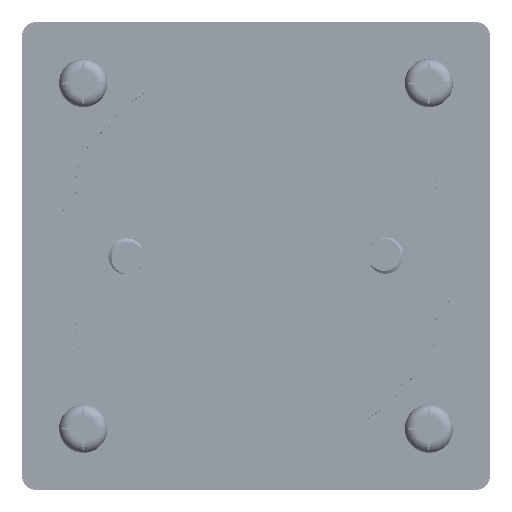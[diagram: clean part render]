
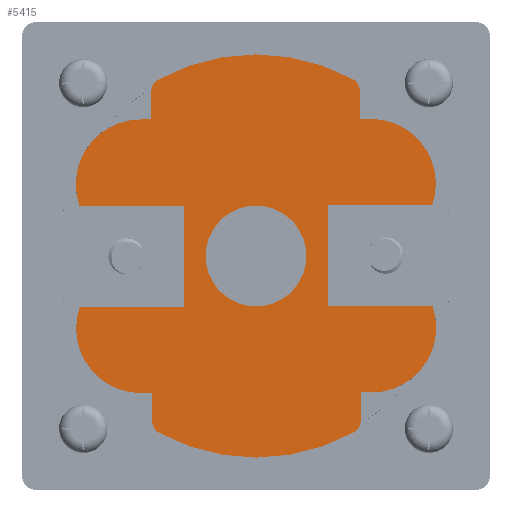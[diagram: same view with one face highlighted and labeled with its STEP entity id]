
A CAD part, front view. The second image highlights one B-rep face of the part: STEP entity #5415.
In plain terms, the highlighted planar face has unit normal (0, -1, 0).
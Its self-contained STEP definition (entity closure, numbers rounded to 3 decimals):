
#1815=FACE_BOUND('',#11530,.T.);
#1816=FACE_BOUND('',#11531,.T.);
#5415=ADVANCED_FACE('',(#1815,#1816),#7051,.F.);
#7051=PLANE('',#46817);
#11530=EDGE_LOOP('',(#23997,#23998,#23999,#24000,#24001,#24002,#24003,#24004,
#24005,#24006,#24007,#24008,#24009,#24010,#24011,#24012,#24013,#24014,#24015,
#24016,#24017,#24018,#24019,#24020,#24021));
#11531=EDGE_LOOP('',(#24022));
#13544=CIRCLE('',#46805,9.);
#13545=CIRCLE('',#46806,2.);
#13546=CIRCLE('',#46807,28.);
#13547=CIRCLE('',#46808,2.);
#13548=CIRCLE('',#46809,8.96);
#13549=CIRCLE('',#46810,9.);
#13550=CIRCLE('',#46811,9.);
#13551=CIRCLE('',#46812,2.);
#13552=CIRCLE('',#46813,28.);
#13553=CIRCLE('',#46814,2.);
#13554=CIRCLE('',#46815,9.);
#13555=CIRCLE('',#46816,7.);
#23997=ORIENTED_EDGE('',*,*,#36170,.F.);
#23998=ORIENTED_EDGE('',*,*,#36171,.T.);
#23999=ORIENTED_EDGE('',*,*,#36172,.T.);
#24000=ORIENTED_EDGE('',*,*,#36173,.T.);
#24001=ORIENTED_EDGE('',*,*,#36174,.T.);
#24002=ORIENTED_EDGE('',*,*,#36175,.T.);
#24003=ORIENTED_EDGE('',*,*,#36176,.T.);
#24004=ORIENTED_EDGE('',*,*,#36177,.T.);
#24005=ORIENTED_EDGE('',*,*,#36178,.T.);
#24006=ORIENTED_EDGE('',*,*,#36179,.T.);
#24007=ORIENTED_EDGE('',*,*,#36180,.T.);
#24008=ORIENTED_EDGE('',*,*,#36181,.F.);
#24009=ORIENTED_EDGE('',*,*,#36182,.F.);
#24010=ORIENTED_EDGE('',*,*,#36183,.F.);
#24011=ORIENTED_EDGE('',*,*,#36184,.T.);
#24012=ORIENTED_EDGE('',*,*,#36185,.T.);
#24013=ORIENTED_EDGE('',*,*,#36186,.T.);
#24014=ORIENTED_EDGE('',*,*,#36187,.T.);
#24015=ORIENTED_EDGE('',*,*,#36188,.T.);
#24016=ORIENTED_EDGE('',*,*,#36189,.T.);
#24017=ORIENTED_EDGE('',*,*,#36190,.T.);
#24018=ORIENTED_EDGE('',*,*,#36191,.T.);
#24019=ORIENTED_EDGE('',*,*,#36192,.T.);
#24020=ORIENTED_EDGE('',*,*,#36193,.F.);
#24021=ORIENTED_EDGE('',*,*,#36194,.F.);
#24022=ORIENTED_EDGE('',*,*,#36195,.F.);
#30171=VERTEX_POINT('',#169929);
#30172=VERTEX_POINT('',#169930);
#30173=VERTEX_POINT('',#169932);
#30174=VERTEX_POINT('',#169934);
#30175=VERTEX_POINT('',#169936);
#30176=VERTEX_POINT('',#169938);
#30177=VERTEX_POINT('',#169940);
#30178=VERTEX_POINT('',#169942);
#30179=VERTEX_POINT('',#169944);
#30180=VERTEX_POINT('',#169946);
#30181=VERTEX_POINT('',#169948);
#30182=VERTEX_POINT('',#169950);
#30183=VERTEX_POINT('',#169952);
#30184=VERTEX_POINT('',#169954);
#30185=VERTEX_POINT('',#169956);
#30186=VERTEX_POINT('',#169958);
#30187=VERTEX_POINT('',#169960);
#30188=VERTEX_POINT('',#169962);
#30189=VERTEX_POINT('',#169964);
#30190=VERTEX_POINT('',#169966);
#30191=VERTEX_POINT('',#169968);
#30192=VERTEX_POINT('',#169970);
#30193=VERTEX_POINT('',#169972);
#30194=VERTEX_POINT('',#169974);
#30195=VERTEX_POINT('',#169976);
#30196=VERTEX_POINT('',#169979);
#36170=EDGE_CURVE('',#30171,#30172,#39867,.T.);
#36171=EDGE_CURVE('',#30171,#30173,#13544,.T.);
#36172=EDGE_CURVE('',#30173,#30174,#39868,.T.);
#36173=EDGE_CURVE('',#30174,#30175,#39869,.T.);
#36174=EDGE_CURVE('',#30175,#30176,#13545,.T.);
#36175=EDGE_CURVE('',#30176,#30177,#13546,.T.);
#36176=EDGE_CURVE('',#30177,#30178,#13547,.T.);
#36177=EDGE_CURVE('',#30178,#30179,#39870,.T.);
#36178=EDGE_CURVE('',#30179,#30180,#13548,.T.);
#36179=EDGE_CURVE('',#30180,#30181,#39871,.T.);
#36180=EDGE_CURVE('',#30181,#30182,#13549,.T.);
#36181=EDGE_CURVE('',#30183,#30182,#39872,.T.);
#36182=EDGE_CURVE('',#30184,#30183,#39873,.T.);
#36183=EDGE_CURVE('',#30185,#30184,#39874,.T.);
#36184=EDGE_CURVE('',#30185,#30186,#13550,.T.);
#36185=EDGE_CURVE('',#30186,#30187,#39875,.T.);
#36186=EDGE_CURVE('',#30187,#30188,#39876,.T.);
#36187=EDGE_CURVE('',#30188,#30189,#13551,.T.);
#36188=EDGE_CURVE('',#30189,#30190,#13552,.T.);
#36189=EDGE_CURVE('',#30190,#30191,#13553,.T.);
#36190=EDGE_CURVE('',#30191,#30192,#39877,.T.);
#36191=EDGE_CURVE('',#30192,#30193,#39878,.T.);
#36192=EDGE_CURVE('',#30193,#30194,#13554,.T.);
#36193=EDGE_CURVE('',#30195,#30194,#39879,.T.);
#36194=EDGE_CURVE('',#30172,#30195,#39880,.T.);
#36195=EDGE_CURVE('',#30196,#30196,#13555,.T.);
#39867=LINE('',#169928,#42986);
#39868=LINE('',#169933,#42987);
#39869=LINE('',#169935,#42988);
#39870=LINE('',#169943,#42989);
#39871=LINE('',#169947,#42990);
#39872=LINE('',#169951,#42991);
#39873=LINE('',#169953,#42992);
#39874=LINE('',#169955,#42993);
#39875=LINE('',#169959,#42994);
#39876=LINE('',#169961,#42995);
#39877=LINE('',#169969,#42996);
#39878=LINE('',#169971,#42997);
#39879=LINE('',#169975,#42998);
#39880=LINE('',#169977,#42999);
#42986=VECTOR('',#56653,1.);
#42987=VECTOR('',#56656,1.);
#42988=VECTOR('',#56657,1.);
#42989=VECTOR('',#56664,1.);
#42990=VECTOR('',#56667,1.);
#42991=VECTOR('',#56670,1.);
#42992=VECTOR('',#56671,1.);
#42993=VECTOR('',#56672,1.);
#42994=VECTOR('',#56675,1.);
#42995=VECTOR('',#56676,1.);
#42996=VECTOR('',#56683,1.);
#42997=VECTOR('',#56684,1.);
#42998=VECTOR('',#56687,1.);
#42999=VECTOR('',#56688,1.);
#46805=AXIS2_PLACEMENT_3D('',#169931,#56654,#56655);
#46806=AXIS2_PLACEMENT_3D('',#169937,#56658,#56659);
#46807=AXIS2_PLACEMENT_3D('',#169939,#56660,#56661);
#46808=AXIS2_PLACEMENT_3D('',#169941,#56662,#56663);
#46809=AXIS2_PLACEMENT_3D('',#169945,#56665,#56666);
#46810=AXIS2_PLACEMENT_3D('',#169949,#56668,#56669);
#46811=AXIS2_PLACEMENT_3D('',#169957,#56673,#56674);
#46812=AXIS2_PLACEMENT_3D('',#169963,#56677,#56678);
#46813=AXIS2_PLACEMENT_3D('',#169965,#56679,#56680);
#46814=AXIS2_PLACEMENT_3D('',#169967,#56681,#56682);
#46815=AXIS2_PLACEMENT_3D('',#169973,#56685,#56686);
#46816=AXIS2_PLACEMENT_3D('',#169978,#56689,#56690);
#46817=AXIS2_PLACEMENT_3D('',#169980,#56691,#56692);
#56653=DIRECTION('',(1.,0.,0.003));
#56654=DIRECTION('',(0.,-1.,0.));
#56655=DIRECTION('',(-0.89,0.,0.456));
#56656=DIRECTION('',(1.,0.,0.003));
#56657=DIRECTION('',(0.003,0.,-1.));
#56658=DIRECTION('',(0.,-1.,0.));
#56659=DIRECTION('',(1.,0.,0.003));
#56660=DIRECTION('',(0.,-1.,0.));
#56661=DIRECTION('',(1.,0.,0.003));
#56662=DIRECTION('',(0.,-1.,0.));
#56663=DIRECTION('',(1.,0.,0.003));
#56664=DIRECTION('',(-0.003,0.,1.));
#56665=DIRECTION('',(0.,-1.,0.));
#56666=DIRECTION('',(0.,0.,-1.));
#56667=DIRECTION('',(1.,0.,0.003));
#56668=DIRECTION('',(0.,-1.,0.));
#56669=DIRECTION('',(0.,0.,-1.));
#56670=DIRECTION('',(1.,0.,0.003));
#56671=DIRECTION('',(0.003,0.,-1.));
#56672=DIRECTION('',(-1.,0.,-0.003));
#56673=DIRECTION('',(0.,-1.,0.));
#56674=DIRECTION('',(1.,0.,0.003));
#56675=DIRECTION('',(-1.,0.,-0.003));
#56676=DIRECTION('',(-0.003,0.,1.));
#56677=DIRECTION('',(0.,-1.,0.));
#56678=DIRECTION('',(1.,0.,0.003));
#56679=DIRECTION('',(0.,-1.,0.));
#56680=DIRECTION('',(1.,0.,0.003));
#56681=DIRECTION('',(0.,-1.,0.));
#56682=DIRECTION('',(1.,0.,0.003));
#56683=DIRECTION('',(0.003,0.,-1.));
#56684=DIRECTION('',(-1.,0.,-0.003));
#56685=DIRECTION('',(0.,-1.,0.));
#56686=DIRECTION('',(-1.,0.,-0.003));
#56687=DIRECTION('',(-1.,0.,-0.003));
#56688=DIRECTION('',(-0.003,0.,1.));
#56689=DIRECTION('',(0.,-1.,0.));
#56690=DIRECTION('',(-1.,0.,-0.003));
#56691=DIRECTION('',(0.,1.,0.));
#56692=DIRECTION('',(0.,0.,1.));
#169928=CARTESIAN_POINT('',(-34.164,-175.6,-7.088));
#169929=CARTESIAN_POINT('',(-24.468,-175.6,-7.063));
#169930=CARTESIAN_POINT('',(-9.982,-175.6,-7.026));
#169931=CARTESIAN_POINT('',(-15.974,-175.6,-10.041));
#169932=CARTESIAN_POINT('',(-15.951,-175.6,-19.041));
#169933=CARTESIAN_POINT('',(23.753,-175.6,-18.934));
#169934=CARTESIAN_POINT('',(-14.451,-175.6,-19.037));
#169935=CARTESIAN_POINT('',(-14.451,-175.6,-19.037));
#169936=CARTESIAN_POINT('',(-14.441,-175.6,-22.835));
#169937=CARTESIAN_POINT('',(-12.441,-175.6,-22.83));
#169938=CARTESIAN_POINT('',(-13.398,-175.6,-24.586));
#169939=CARTESIAN_POINT('',(0.,-175.6,0.));
#169940=CARTESIAN_POINT('',(13.525,-175.6,-24.517));
#169941=CARTESIAN_POINT('',(12.558,-175.6,-22.766));
#169942=CARTESIAN_POINT('',(14.558,-175.6,-22.761));
#169943=CARTESIAN_POINT('',(14.558,-175.6,-22.761));
#169944=CARTESIAN_POINT('',(14.548,-175.6,-18.837));
#169945=CARTESIAN_POINT('',(16.02,-175.6,-9.999));
#169946=CARTESIAN_POINT('',(15.978,-175.6,-18.959));
#169947=CARTESIAN_POINT('',(23.752,-175.6,-18.938));
#169948=CARTESIAN_POINT('',(16.119,-175.6,-18.958));
#169949=CARTESIAN_POINT('',(16.026,-175.6,-9.959));
#169950=CARTESIAN_POINT('',(24.503,-175.6,-6.937));
#169951=CARTESIAN_POINT('',(10.018,-175.6,-6.974));
#169952=CARTESIAN_POINT('',(10.018,-175.6,-6.974));
#169953=CARTESIAN_POINT('',(9.982,-175.6,7.026));
#169954=CARTESIAN_POINT('',(9.982,-175.6,7.026));
#169955=CARTESIAN_POINT('',(34.164,-175.6,7.088));
#169956=CARTESIAN_POINT('',(24.467,-175.6,7.063));
#169957=CARTESIAN_POINT('',(15.974,-175.6,10.041));
#169958=CARTESIAN_POINT('',(15.951,-175.6,19.041));
#169959=CARTESIAN_POINT('',(15.951,-175.6,19.041));
#169960=CARTESIAN_POINT('',(14.451,-175.6,19.037));
#169961=CARTESIAN_POINT('',(14.451,-175.6,19.037));
#169962=CARTESIAN_POINT('',(14.441,-175.6,22.835));
#169963=CARTESIAN_POINT('',(12.441,-175.6,22.83));
#169964=CARTESIAN_POINT('',(13.398,-175.6,24.586));
#169965=CARTESIAN_POINT('',(0.,-175.6,0.));
#169966=CARTESIAN_POINT('',(-13.525,-175.6,24.517));
#169967=CARTESIAN_POINT('',(-12.558,-175.6,22.766));
#169968=CARTESIAN_POINT('',(-14.558,-175.6,22.761));
#169969=CARTESIAN_POINT('',(-14.558,-175.6,22.761));
#169970=CARTESIAN_POINT('',(-14.549,-175.6,18.963));
#169971=CARTESIAN_POINT('',(-14.549,-175.6,18.963));
#169972=CARTESIAN_POINT('',(-16.049,-175.6,18.959));
#169973=CARTESIAN_POINT('',(-16.026,-175.6,9.959));
#169974=CARTESIAN_POINT('',(-24.503,-175.6,6.937));
#169975=CARTESIAN_POINT('',(-10.018,-175.6,6.974));
#169976=CARTESIAN_POINT('',(-10.018,-175.6,6.974));
#169977=CARTESIAN_POINT('',(-9.982,-175.6,-7.026));
#169978=CARTESIAN_POINT('',(0.,-175.6,0.));
#169979=CARTESIAN_POINT('',(-7.,-175.6,-0.018));
#169980=CARTESIAN_POINT('',(23.741,-175.6,-14.593));
